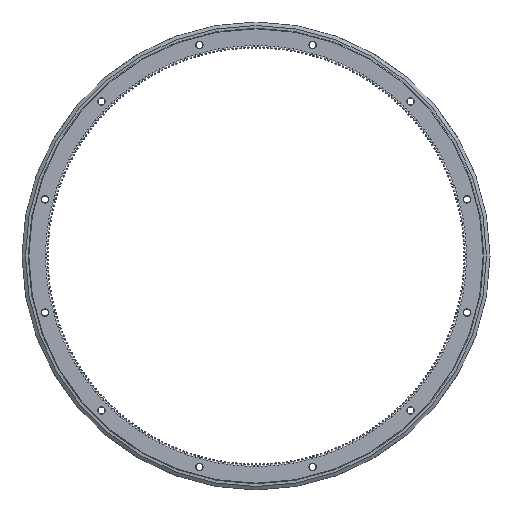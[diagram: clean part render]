
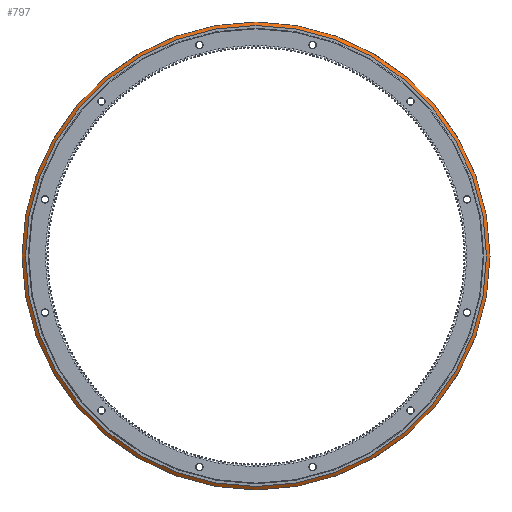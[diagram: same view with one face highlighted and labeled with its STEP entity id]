
A CAD part, front view. The second image highlights one B-rep face of the part: STEP entity #797.
In plain terms, the highlighted conical face has half-angle 55 degrees and reference radius 185.157 mm.
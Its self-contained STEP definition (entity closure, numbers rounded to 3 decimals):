
#797 = ADVANCED_FACE( '', ( #3309, #3310 ), #3311, .T. );
#3309 = FACE_OUTER_BOUND( '', #6868, .T. );
#3310 = FACE_BOUND( '', #6869, .T. );
#3311 = CONICAL_SURFACE( '', #6870, 185.157, 0.96 );
#6868 = EDGE_LOOP( '', ( #14558 ) );
#6869 = EDGE_LOOP( '', ( #14559 ) );
#6870 = AXIS2_PLACEMENT_3D( '', #14560, #14561, #14562 );
#14558 = ORIENTED_EDGE( '', *, *, #27785, .T. );
#14559 = ORIENTED_EDGE( '', *, *, #27786, .F. );
#14560 = CARTESIAN_POINT( '', ( 0., 7.75, 0. ) );
#14561 = DIRECTION( '', ( 0., 1., 0. ) );
#14562 = DIRECTION( '', ( 0., 0., 1. ) );
#27785 = EDGE_CURVE( '', #36311, #36311, #36312, .T. );
#27786 = EDGE_CURVE( '', #36313, #36313, #36314, .T. );
#36311 = VERTEX_POINT( '', #49546 );
#36312 = CIRCLE( '', #49547, 187.785 );
#36313 = VERTEX_POINT( '', #49548 );
#36314 = CIRCLE( '', #49549, 185.157 );
#49546 = CARTESIAN_POINT( '', ( 0., 9.59, -187.785 ) );
#49547 = AXIS2_PLACEMENT_3D( '', #54131, #54132, #54133 );
#49548 = CARTESIAN_POINT( '', ( 0., 7.75, -185.157 ) );
#49549 = AXIS2_PLACEMENT_3D( '', #54134, #54135, #54136 );
#54131 = CARTESIAN_POINT( '', ( 0., 9.59, 0. ) );
#54132 = DIRECTION( '', ( 0., -1., 0. ) );
#54133 = DIRECTION( '', ( 0., 0., -1. ) );
#54134 = CARTESIAN_POINT( '', ( 0., 7.75, 0. ) );
#54135 = DIRECTION( '', ( 0., -1., 0. ) );
#54136 = DIRECTION( '', ( 0., 0., -1. ) );
